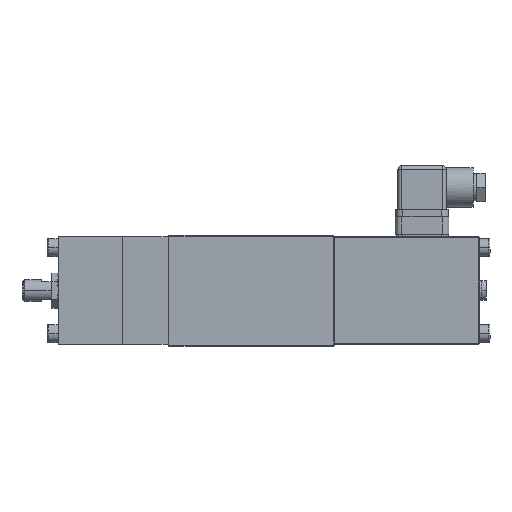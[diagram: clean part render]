
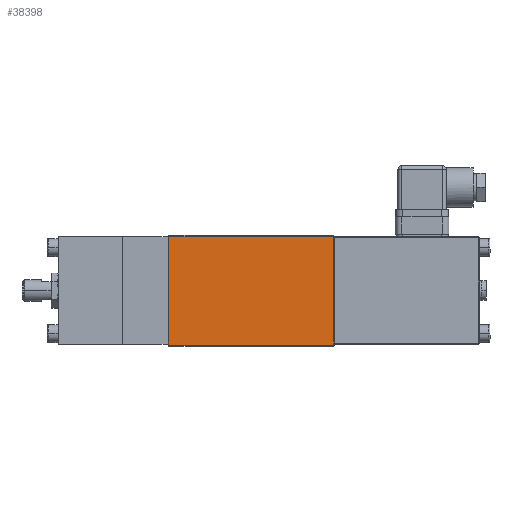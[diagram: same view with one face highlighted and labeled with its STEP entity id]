
A CAD part, top view. The second image highlights one B-rep face of the part: STEP entity #38398.
In plain terms, the highlighted planar face has unit normal (0, 0, 1).
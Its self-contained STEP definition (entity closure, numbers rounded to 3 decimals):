
#838 = LINE ( 'NONE', #14122, #9882 ) ;
#1666 = DIRECTION ( 'NONE',  ( 1., 0., 0. ) ) ;
#2991 = DIRECTION ( 'NONE',  ( -1., 0., 0. ) ) ;
#3006 = CARTESIAN_POINT ( 'NONE',  ( 92.5, -31., 31. ) ) ;
#3977 = LINE ( 'NONE', #23385, #39152 ) ;
#6386 = DIRECTION ( 'NONE',  ( 0., 1., 0. ) ) ;
#8774 = EDGE_CURVE ( 'NONE', #29179, #9886, #838, .T. ) ;
#9882 = VECTOR ( 'NONE', #20976, 1000. ) ;
#9886 = VERTEX_POINT ( 'NONE', #31459 ) ;
#10719 = CARTESIAN_POINT ( 'NONE',  ( 93., -31., 31. ) ) ;
#11420 = VERTEX_POINT ( 'NONE', #24630 ) ;
#11550 = FACE_OUTER_BOUND ( 'NONE', #42007, .T. ) ;
#13017 = ORIENTED_EDGE ( 'NONE', *, *, #8774, .T. ) ;
#14005 = PLANE ( 'NONE',  #37713 ) ;
#14122 = CARTESIAN_POINT ( 'NONE',  ( 0.5, -31., 31. ) ) ;
#14147 = DIRECTION ( 'NONE',  ( -1., 0., 0. ) ) ;
#14372 = VERTEX_POINT ( 'NONE', #42158 ) ;
#16023 = ORIENTED_EDGE ( 'NONE', *, *, #32987, .T. ) ;
#16286 = EDGE_CURVE ( 'NONE', #14372, #11420, #26537, .T. ) ;
#17493 = VECTOR ( 'NONE', #6386, 1000. ) ;
#17902 = ORIENTED_EDGE ( 'NONE', *, *, #16286, .T. ) ;
#17986 = EDGE_CURVE ( 'NONE', #9886, #14372, #20878, .T. ) ;
#19798 = VECTOR ( 'NONE', #1666, 1000. ) ;
#20878 = LINE ( 'NONE', #42423, #19798 ) ;
#20976 = DIRECTION ( 'NONE',  ( 0., -1., 0. ) ) ;
#23385 = CARTESIAN_POINT ( 'NONE',  ( 93., 30.5, 31. ) ) ;
#23796 = ORIENTED_EDGE ( 'NONE', *, *, #17986, .T. ) ;
#24630 = CARTESIAN_POINT ( 'NONE',  ( 92.5, 30.5, 31. ) ) ;
#26537 = LINE ( 'NONE', #3006, #17493 ) ;
#29179 = VERTEX_POINT ( 'NONE', #34425 ) ;
#31459 = CARTESIAN_POINT ( 'NONE',  ( 0.5, -30.5, 31. ) ) ;
#32987 = EDGE_CURVE ( 'NONE', #11420, #29179, #3977, .T. ) ;
#34425 = CARTESIAN_POINT ( 'NONE',  ( 0.5, 30.5, 31. ) ) ;
#34554 = DIRECTION ( 'NONE',  ( 0., 0., -1. ) ) ;
#37713 = AXIS2_PLACEMENT_3D ( 'NONE', #10719, #34554, #14147 ) ;
#38398 = ADVANCED_FACE ( 'NONE', ( #11550 ), #14005, .F. ) ;
#39152 = VECTOR ( 'NONE', #2991, 1000. ) ;
#42007 = EDGE_LOOP ( 'NONE', ( #17902, #16023, #13017, #23796 ) ) ;
#42158 = CARTESIAN_POINT ( 'NONE',  ( 92.5, -30.5, 31. ) ) ;
#42423 = CARTESIAN_POINT ( 'NONE',  ( 93., -30.5, 31. ) ) ;
